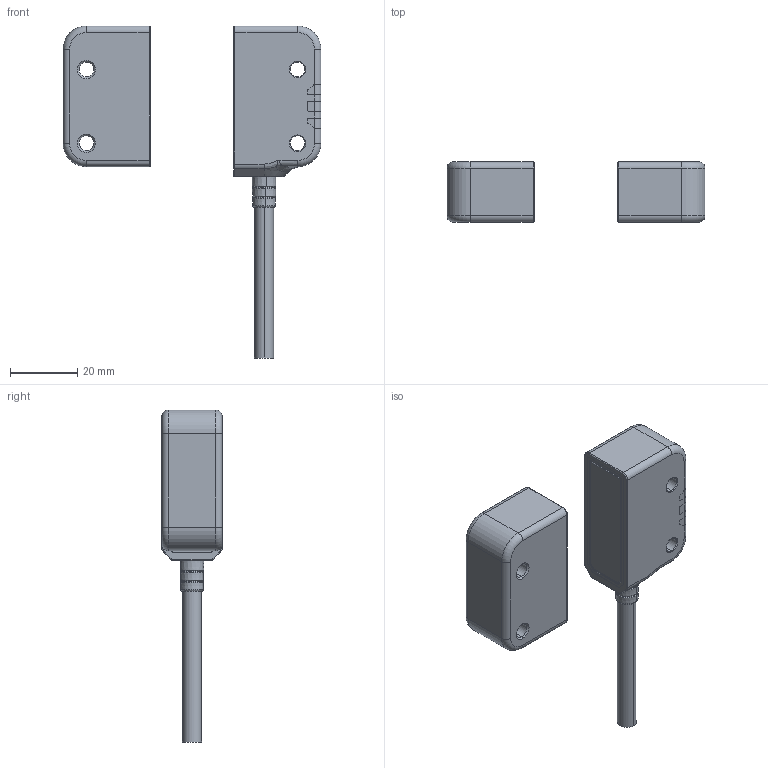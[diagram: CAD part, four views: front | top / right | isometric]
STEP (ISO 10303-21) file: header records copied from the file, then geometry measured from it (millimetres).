
FILE_DESCRIPTION (( 'STEP AP203' ), '1' );
FILE_NAME ('MMZ-U RFID OSSD 5m Cable Assembly - Secured.STEP', '2024-02-29T16:14:54', ( '' ), ( '' ), 'SwSTEP 2.0', 'SolidWorks 2021', '' );
FILE_SCHEMA (( 'CONFIG_CONTROL_DESIGN' ));
Length unit declared in the file: millimetre
Products named in the file (10): 100552-EX Grommet (Iss4); MMZ-U RFID OSSD 5m Cable Assembly - Secured; 418627 MMZ Actuator Body SS (Iss2); MMZ Switch Body with Lens - Secured; 418625 MMZ Lid (Iss1); 418629 MMZ Actuator Lid (Iss1); 418621 MMZ Switch Body SS Details - Secured; Generic 6 Core Cable; 418532 MMZ Actuator Sub-Assembly (RevA); MMZ Insulating Lens - Secured
Assembly tree (9 placements, depth 3):
  MMZ-U RFID OSSD 5m Cable Assembly - Secured
    MMZ Switch Body with Lens - Secured
      418621 MMZ Switch Body SS Details - Secured
      MMZ Insulating Lens - Secured
    418625 MMZ Lid (Iss1)
    100552-EX Grommet (Iss4)
    Generic 6 Core Cable
    418532 MMZ Actuator Sub-Assembly (RevA)
      418627 MMZ Actuator Body SS (Iss2)
      418629 MMZ Actuator Lid (Iss1)
Bounding box: 77 x 18 x 99.1 mm (x, y, z)
Volume: 42384.1 mm3; surface area: 21645.6 mm2
Topology: 7 solids, 7 shells, 889 faces, 2181 edges, 1256 vertices
Faces by surface type: cylinder 345, plane 318, torus 106, sphere 70, cone 40, bspline 10
Entity records: 26785 total; most frequent: CARTESIAN_POINT 4816, DIRECTION 4695, ORIENTED_EDGE 4222, EDGE_CURVE 2111, AXIS2_PLACEMENT_3D 1753, VERTEX_POINT 1256, LINE 1189, VECTOR 1189
